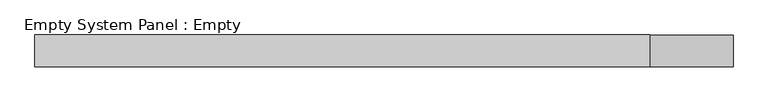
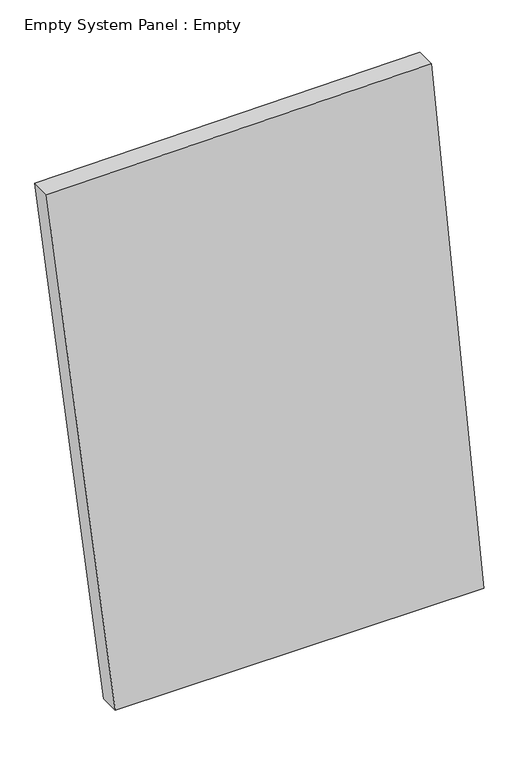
"""IFC4 building model written with IfcOpenShell, lengths in millimetres: plate geometry, Empty System Panel : Empty."""

from ifc_helpers import new_model, si_unit, frame, origin, place, context, project, spatial, polyline, outline, extrude, source, transform, mapped, element, save


def empty_system_panel_empty_baff2e39(model_context):
    return source(origin(), model_context, "Body", "SweptSolid", [
        extrude(outline(polyline([(0.0, -762.7878485), (0.0, 1113.3464182), (2913.9952139, 846.8115173), (2896.6113849, -1113.3464182), (0.0, -762.7878485)])), frame((0.0, -50.8, 0.0), z_axis=(0.0, 1.0, 0.0), x_axis=(0.0, 0.0, 1.0)), (0.0, 0.0, 1.0), 101.6),
    ])


if __name__ == "__main__":
    model = new_model("IFC4")
    model_context = context("Model", 3, world=origin())
    ifc_project = project(units=[si_unit("LENGTHUNIT", "METRE", prefix="MILLI")], contexts=[model_context])
    site = spatial("IfcSite", under=ifc_project)
    building = spatial("IfcBuilding", under=site)
    placement = place(None, origin())
    empty_system_panel_empty_shape = empty_system_panel_empty_baff2e39(model_context)
    element("IfcPlate", 1, ObjectType="Empty System Panel : Empty", at=placement, inside=building, context=model_context, shape_type="MappedRepresentation", body=[
        mapped(empty_system_panel_empty_shape, transform((0.0, 0.0, 0.0), x_axis=(1.0, 0.0, 0.0), y_axis=(0.0, 1.0, 0.0), z_axis=(0.0, 0.0, 1.0))),
    ])
    save(model, "model.ifc")
